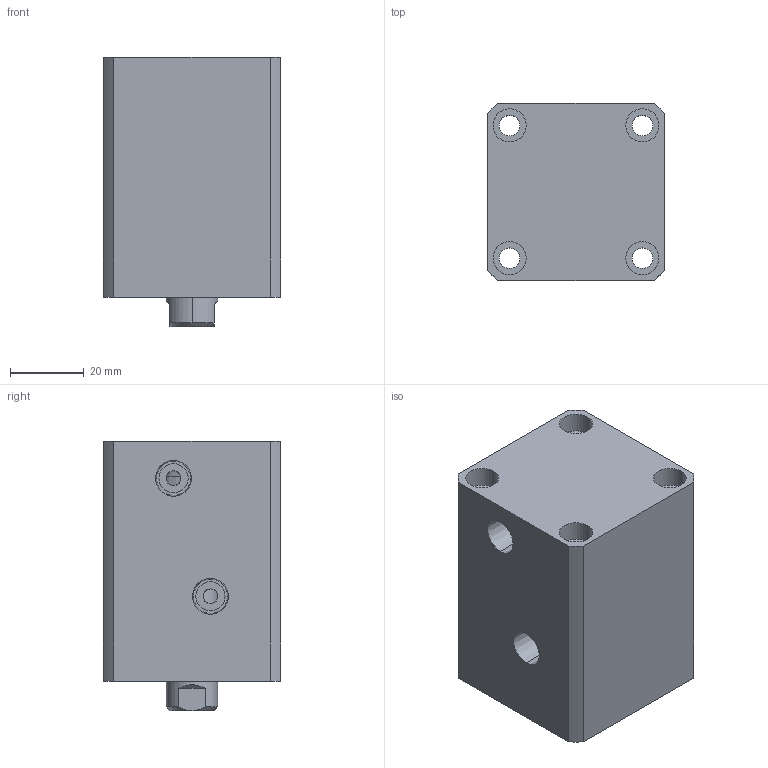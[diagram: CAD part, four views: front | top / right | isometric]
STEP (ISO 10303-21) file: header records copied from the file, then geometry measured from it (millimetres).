
FILE_DESCRIPTION (( 'STEP AP214' ), '1' );
FILE_NAME ('chtb-sd25x20n_asm.STEP', '2018-05-22T11:13:36', ( 'Windows' ), ( 'Microsoft' ), 'SwSTEP 2.0', 'SolidWorks 2015', '' );
FILE_SCHEMA (( 'AUTOMOTIVE_DESIGN' ));
Length unit declared in the file: millimetre
Products named in the file (4): CHTB-SD25X20NHSG; CHTB-SD25X20NBT; CHTB-25QG; chtb-sd25x20n_asm
Assembly tree (3 placements, depth 2):
  chtb-sd25x20n_asm
    CHTB-25QG
    CHTB-SD25X20NBT
    CHTB-SD25X20NHSG
Bounding box: 48 x 48 x 73 mm (x, y, z)
Volume: 131352.1 mm3; surface area: 37318.3 mm2
Topology: 3 solids, 3 shells, 144 faces, 377 edges, 257 vertices
Faces by surface type: cylinder 85, plane 36, cone 13, bspline 10
Entity records: 7940 total; most frequent: CARTESIAN_POINT 4299, ORIENTED_EDGE 742, DIRECTION 671, EDGE_CURVE 371, AXIS2_PLACEMENT_3D 278, VERTEX_POINT 257, EDGE_LOOP 182, FACE_OUTER_BOUND 144
